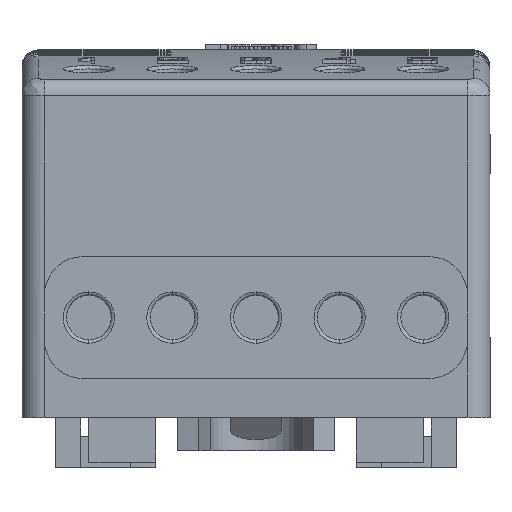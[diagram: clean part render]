
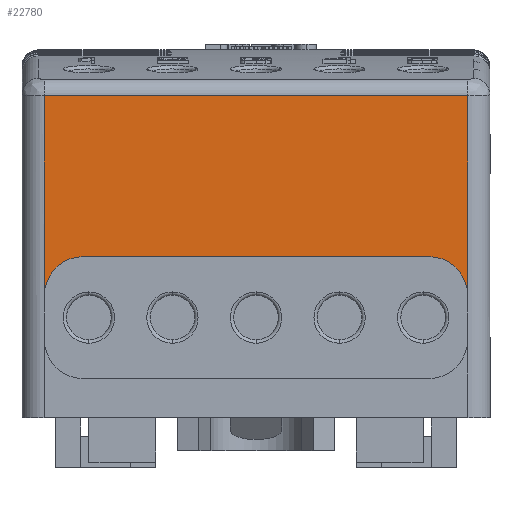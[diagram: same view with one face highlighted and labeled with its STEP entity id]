
A CAD part, front view. The second image highlights one B-rep face of the part: STEP entity #22780.
In plain terms, the highlighted planar face has unit normal (0, -1, 0).
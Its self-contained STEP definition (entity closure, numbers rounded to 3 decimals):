
#1371 = EDGE_CURVE ( 'NONE', #14594, #12969, #6877, .T. ) ;
#1643 = DIRECTION ( 'NONE',  ( 0., 1., 0. ) ) ;
#1820 = CARTESIAN_POINT ( 'NONE',  ( 2., -31.5, 33. ) ) ;
#2062 = CIRCLE ( 'NONE', #18484, 3.5 ) ;
#2986 = EDGE_CURVE ( 'NONE', #29923, #5389, #7565, .T. ) ;
#3599 = AXIS2_PLACEMENT_3D ( 'NONE', #8384, #25115, #10791 ) ;
#4201 = DIRECTION ( 'NONE',  ( 0., 0., 1. ) ) ;
#4473 = EDGE_CURVE ( 'NONE', #29923, #14594, #19868, .T. ) ;
#5389 = VERTEX_POINT ( 'NONE', #19477 ) ;
#6051 = VECTOR ( 'NONE', #30444, 1000. ) ;
#6877 = LINE ( 'NONE', #21546, #19580 ) ;
#7199 = DIRECTION ( 'NONE',  ( -1., 0., 0. ) ) ;
#7204 = DIRECTION ( 'NONE',  ( 0., 0., 1. ) ) ;
#7565 = LINE ( 'NONE', #11002, #19547 ) ;
#8123 = EDGE_CURVE ( 'NONE', #13422, #5389, #2062, .T. ) ;
#8384 = CARTESIAN_POINT ( 'NONE',  ( 36.5, -31.5, 10.943 ) ) ;
#8530 = ORIENTED_EDGE ( 'NONE', *, *, #4473, .T. ) ;
#8663 = CARTESIAN_POINT ( 'NONE',  ( 40., -31.5, 28.887 ) ) ;
#10791 = DIRECTION ( 'NONE',  ( 0., 0., 1. ) ) ;
#11002 = CARTESIAN_POINT ( 'NONE',  ( 2., -31.5, 14.443 ) ) ;
#12308 = CARTESIAN_POINT ( 'NONE',  ( 36.5, -31.5, 14.443 ) ) ;
#12354 = LINE ( 'NONE', #1820, #6051 ) ;
#12969 = VERTEX_POINT ( 'NONE', #8663 ) ;
#13422 = VERTEX_POINT ( 'NONE', #28375 ) ;
#13882 = EDGE_CURVE ( 'NONE', #20700, #13422, #12354, .T. ) ;
#14594 = VERTEX_POINT ( 'NONE', #20370 ) ;
#15900 = DIRECTION ( 'NONE',  ( -1., 0., 0. ) ) ;
#15950 = CARTESIAN_POINT ( 'NONE',  ( 5.5, -31.5, 10.943 ) ) ;
#16062 = ORIENTED_EDGE ( 'NONE', *, *, #8123, .T. ) ;
#16106 = CARTESIAN_POINT ( 'NONE',  ( 0., -31.5, 33. ) ) ;
#16267 = LINE ( 'NONE', #21543, #28966 ) ;
#17496 = ORIENTED_EDGE ( 'NONE', *, *, #13882, .T. ) ;
#18376 = DIRECTION ( 'NONE',  ( 0., 0., 1. ) ) ;
#18484 = AXIS2_PLACEMENT_3D ( 'NONE', #15950, #1643, #18376 ) ;
#18539 = DIRECTION ( 'NONE',  ( 0., 1., 0. ) ) ;
#19477 = CARTESIAN_POINT ( 'NONE',  ( 5.5, -31.5, 14.443 ) ) ;
#19547 = VECTOR ( 'NONE', #15900, 1000. ) ;
#19580 = VECTOR ( 'NONE', #7204, 1000. ) ;
#19868 = CIRCLE ( 'NONE', #3599, 3.5 ) ;
#20370 = CARTESIAN_POINT ( 'NONE',  ( 40., -31.5, 10.943 ) ) ;
#20700 = VERTEX_POINT ( 'NONE', #30403 ) ;
#21539 = ORIENTED_EDGE ( 'NONE', *, *, #22173, .T. ) ;
#21543 = CARTESIAN_POINT ( 'NONE',  ( 0., -31.5, 28.887 ) ) ;
#21546 = CARTESIAN_POINT ( 'NONE',  ( 40., -31.5, 33. ) ) ;
#22173 = EDGE_CURVE ( 'NONE', #12969, #20700, #16267, .T. ) ;
#22780 = ADVANCED_FACE ( 'NONE', ( #28927 ), #30419, .F. ) ;
#25115 = DIRECTION ( 'NONE',  ( 0., 1., 0. ) ) ;
#25322 = ORIENTED_EDGE ( 'NONE', *, *, #2986, .F. ) ;
#25889 = EDGE_LOOP ( 'NONE', ( #25322, #8530, #30833, #21539, #17496, #16062 ) ) ;
#28375 = CARTESIAN_POINT ( 'NONE',  ( 2., -31.5, 10.943 ) ) ;
#28927 = FACE_OUTER_BOUND ( 'NONE', #25889, .T. ) ;
#28966 = VECTOR ( 'NONE', #7199, 1000. ) ;
#29411 = AXIS2_PLACEMENT_3D ( 'NONE', #16106, #18539, #4201 ) ;
#29923 = VERTEX_POINT ( 'NONE', #12308 ) ;
#30403 = CARTESIAN_POINT ( 'NONE',  ( 2., -31.5, 28.887 ) ) ;
#30419 = PLANE ( 'NONE',  #29411 ) ;
#30444 = DIRECTION ( 'NONE',  ( 0., 0., -1. ) ) ;
#30833 = ORIENTED_EDGE ( 'NONE', *, *, #1371, .T. ) ;
